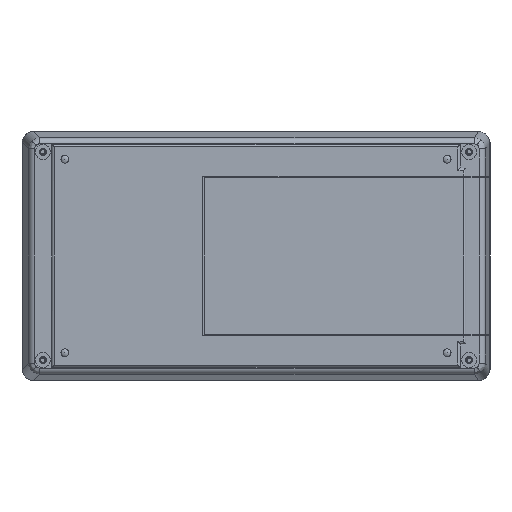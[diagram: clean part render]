
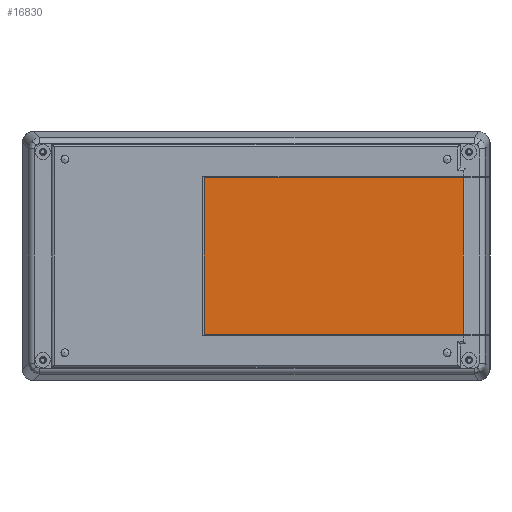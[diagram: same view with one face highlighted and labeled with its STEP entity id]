
A CAD part, front view. The second image highlights one B-rep face of the part: STEP entity #16830.
In plain terms, the highlighted planar face has unit normal (0, -1, 0).
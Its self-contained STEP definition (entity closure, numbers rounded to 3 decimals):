
#1122 = LINE ( 'NONE', #20370, #1624 ) ;
#1624 = VECTOR ( 'NONE', #7503, 1000. ) ;
#2000 = CARTESIAN_POINT ( 'NONE',  ( -21.2, -18.3, 32. ) ) ;
#2305 = CARTESIAN_POINT ( 'NONE',  ( 84.65, -18.3, -32. ) ) ;
#3575 = LINE ( 'NONE', #6339, #16917 ) ;
#4200 = ORIENTED_EDGE ( 'NONE', *, *, #5383, .T. ) ;
#5383 = EDGE_CURVE ( 'NONE', #17101, #11225, #1122, .T. ) ;
#5761 = CARTESIAN_POINT ( 'NONE',  ( -21.2, -18.3, -32. ) ) ;
#5921 = CARTESIAN_POINT ( 'NONE',  ( 84.65, -18.3, 32. ) ) ;
#6169 = CARTESIAN_POINT ( 'NONE',  ( -95.3, -18.3, -50.7 ) ) ;
#6239 = DIRECTION ( 'NONE',  ( 0., -1., 0. ) ) ;
#6257 = EDGE_CURVE ( 'NONE', #8529, #11225, #3575, .T. ) ;
#6339 = CARTESIAN_POINT ( 'NONE',  ( 84.65, -18.3, 32. ) ) ;
#7503 = DIRECTION ( 'NONE',  ( 0., 0., 1. ) ) ;
#8529 = VERTEX_POINT ( 'NONE', #2000 ) ;
#11225 = VERTEX_POINT ( 'NONE', #5921 ) ;
#11574 = CARTESIAN_POINT ( 'NONE',  ( 84.65, -18.3, -32. ) ) ;
#11975 = FACE_OUTER_BOUND ( 'NONE', #18918, .T. ) ;
#12202 = DIRECTION ( 'NONE',  ( 0., 0., 1. ) ) ;
#12522 = EDGE_CURVE ( 'NONE', #17072, #8529, #19761, .T. ) ;
#13314 = DIRECTION ( 'NONE',  ( -1., 0., 0. ) ) ;
#14798 = ORIENTED_EDGE ( 'NONE', *, *, #12522, .F. ) ;
#15897 = PLANE ( 'NONE',  #17036 ) ;
#16463 = VECTOR ( 'NONE', #13314, 1000. ) ;
#16656 = CARTESIAN_POINT ( 'NONE',  ( -21.2, -18.3, -32. ) ) ;
#16830 = ADVANCED_FACE ( 'NONE', ( #11975 ), #15897, .T. ) ;
#16917 = VECTOR ( 'NONE', #17609, 1000. ) ;
#16942 = LINE ( 'NONE', #11574, #16463 ) ;
#17036 = AXIS2_PLACEMENT_3D ( 'NONE', #6169, #6239, #17494 ) ;
#17072 = VERTEX_POINT ( 'NONE', #16656 ) ;
#17101 = VERTEX_POINT ( 'NONE', #2305 ) ;
#17298 = ORIENTED_EDGE ( 'NONE', *, *, #6257, .F. ) ;
#17494 = DIRECTION ( 'NONE',  ( 0., 0., -1. ) ) ;
#17609 = DIRECTION ( 'NONE',  ( 1., 0., 0. ) ) ;
#18449 = EDGE_CURVE ( 'NONE', #17101, #17072, #16942, .T. ) ;
#18806 = ORIENTED_EDGE ( 'NONE', *, *, #18449, .F. ) ;
#18918 = EDGE_LOOP ( 'NONE', ( #17298, #14798, #18806, #4200 ) ) ;
#19552 = VECTOR ( 'NONE', #12202, 1000. ) ;
#19761 = LINE ( 'NONE', #5761, #19552 ) ;
#20370 = CARTESIAN_POINT ( 'NONE',  ( 84.65, -18.3, -50.7 ) ) ;
